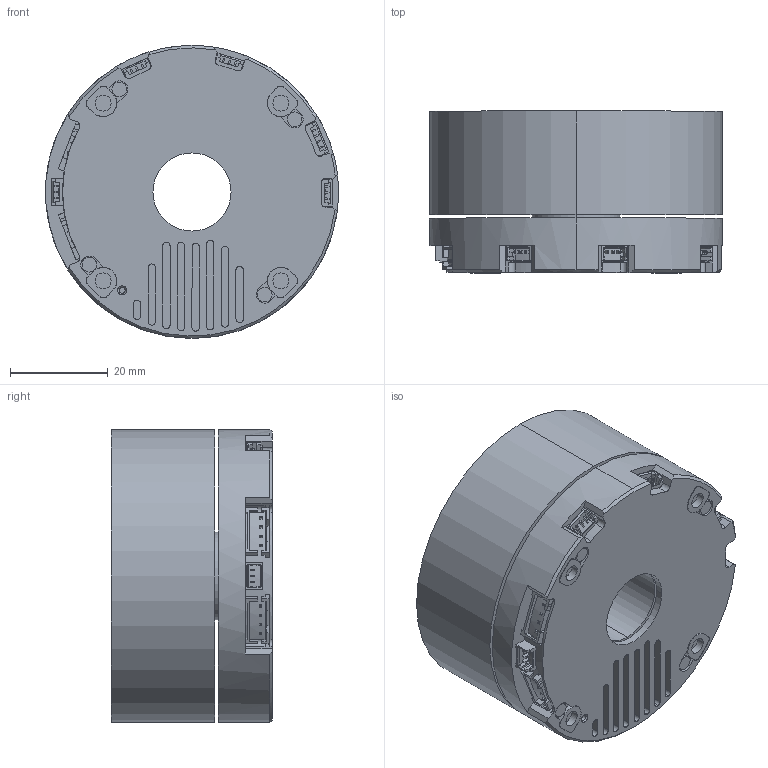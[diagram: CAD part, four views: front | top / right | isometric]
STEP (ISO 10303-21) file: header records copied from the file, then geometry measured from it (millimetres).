
FILE_DESCRIPTION (( 'STEP AP214' ), '1' );
FILE_NAME ('HO5515.00.STEP', '2026-09-17T10:56:40', ( '' ), ( '' ), 'SwSTEP 2.0', 'SolidWorks 2025', '' );
FILE_SCHEMA (( 'AUTOMOTIVE_DESIGN' ));
Length unit declared in the file: millimetre
Products named in the file (1): HO5515.00
Bounding box: 60 x 33.1 x 60 mm (x, y, z)
Volume: 82289.6 mm3; surface area: 21308.8 mm2
Topology: 2 solids, 6 shells, 1413 faces, 3846 edges, 2512 vertices
Faces by surface type: plane 972, bspline 251, cylinder 181, cone 9
Entity records: 53059 total; most frequent: CARTESIAN_POINT 18579, ORIENTED_EDGE 7692, DIRECTION 6189, EDGE_CURVE 3846, LINE 2801, VECTOR 2801, VERTEX_POINT 2512, AXIS2_PLACEMENT_3D 1694
